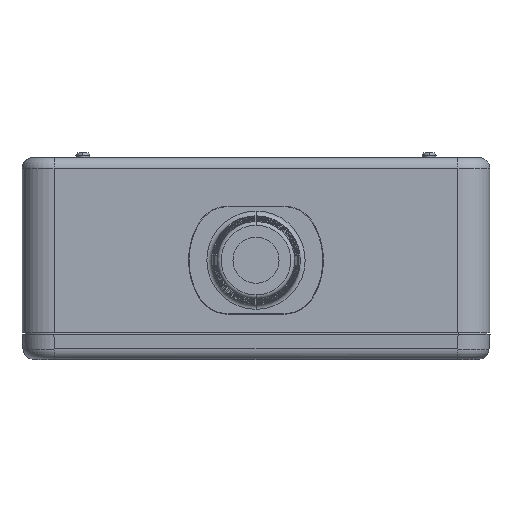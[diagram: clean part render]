
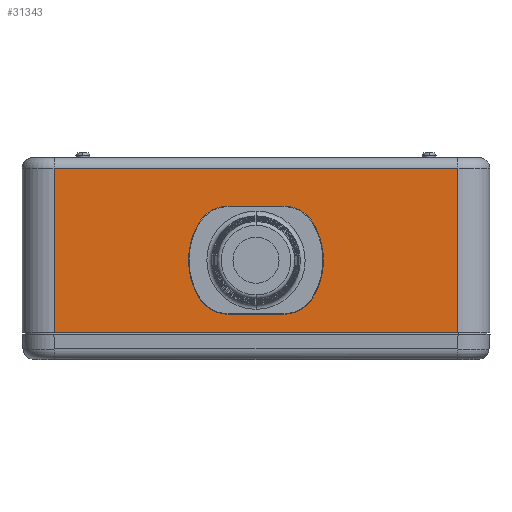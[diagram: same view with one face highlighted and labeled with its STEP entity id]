
A CAD part, front view. The second image highlights one B-rep face of the part: STEP entity #31343.
In plain terms, the highlighted planar face has unit normal (0, -1, 0).
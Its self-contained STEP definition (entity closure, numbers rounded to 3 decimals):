
#524 = EDGE_CURVE ( 'NONE', #14493, #39036, #20710, .T. ) ;
#4475 = DIRECTION ( 'NONE',  ( 0., -1., 0. ) ) ;
#4897 = CARTESIAN_POINT ( 'NONE',  ( 4.357, -68.008, -7.034 ) ) ;
#6177 = VECTOR ( 'NONE', #56966, 1000. ) ;
#6630 = EDGE_CURVE ( 'NONE', #39036, #73761, #94877, .T. ) ;
#7365 = ORIENTED_EDGE ( 'NONE', *, *, #16779, .T. ) ;
#8489 = ORIENTED_EDGE ( 'NONE', *, *, #6630, .F. ) ;
#9577 = CARTESIAN_POINT ( 'NONE',  ( -8.85, -68.008, 7.318 ) ) ;
#9711 = EDGE_CURVE ( 'NONE', #14493, #64503, #93919, .T. ) ;
#11221 = DIRECTION ( 'NONE',  ( 0., 0., -1. ) ) ;
#11225 = AXIS2_PLACEMENT_3D ( 'NONE', #24477, #91588, #17654 ) ;
#11741 = FACE_OUTER_BOUND ( 'NONE', #31758, .T. ) ;
#13473 = CARTESIAN_POINT ( 'NONE',  ( 31.495, -68.008, -9.95 ) ) ;
#14281 = CARTESIAN_POINT ( 'NONE',  ( -0.75, -68.008, 1.396 ) ) ;
#14439 = CARTESIAN_POINT ( 'NONE',  ( 0.75, -68.008, 1.396 ) ) ;
#14493 = VERTEX_POINT ( 'NONE', #18254 ) ;
#14773 = ORIENTED_EDGE ( 'NONE', *, *, #51017, .F. ) ;
#16639 = AXIS2_PLACEMENT_3D ( 'NONE', #14281, #52226, #22546 ) ;
#16779 = EDGE_CURVE ( 'NONE', #46442, #28136, #45296, .T. ) ;
#17233 = CARTESIAN_POINT ( 'NONE',  ( 10.53, -68.008, 1.396 ) ) ;
#17654 = DIRECTION ( 'NONE',  ( 0.851, 0., 0.525 ) ) ;
#18254 = CARTESIAN_POINT ( 'NONE',  ( -4.356, -68.008, 9.826 ) ) ;
#18298 = DIRECTION ( 'NONE',  ( 0., -1., 0. ) ) ;
#19647 = VECTOR ( 'NONE', #54253, 1000. ) ;
#20034 = ORIENTED_EDGE ( 'NONE', *, *, #85271, .T. ) ;
#20710 = CIRCLE ( 'NONE', #92156, 5.28 ) ;
#22295 = EDGE_CURVE ( 'NONE', #34555, #64503, #32958, .T. ) ;
#22546 = DIRECTION ( 'NONE',  ( 1., 0., 0. ) ) ;
#23533 = AXIS2_PLACEMENT_3D ( 'NONE', #71102, #4475, #34132 ) ;
#24214 = CIRCLE ( 'NONE', #49060, 5.28 ) ;
#24245 = AXIS2_PLACEMENT_3D ( 'NONE', #91953, #54988, #40873 ) ;
#24325 = CARTESIAN_POINT ( 'NONE',  ( 31.495, -68.008, -9.95 ) ) ;
#24477 = CARTESIAN_POINT ( 'NONE',  ( 4.357, -68.008, 4.546 ) ) ;
#24670 = CARTESIAN_POINT ( 'NONE',  ( -4.356, -68.008, -7.034 ) ) ;
#25810 = CARTESIAN_POINT ( 'NONE',  ( -31.495, -68.008, 15.646 ) ) ;
#26063 = CARTESIAN_POINT ( 'NONE',  ( 4.357, -68.008, -1.754 ) ) ;
#28136 = VERTEX_POINT ( 'NONE', #65397 ) ;
#29310 = DIRECTION ( 'NONE',  ( 0., 0., 1. ) ) ;
#29518 = DIRECTION ( 'NONE',  ( 0., -1., 0. ) ) ;
#31343 = ADVANCED_FACE ( 'NONE', ( #78402, #11741 ), #41426, .T. ) ;
#31758 = EDGE_LOOP ( 'NONE', ( #83322, #50872, #7365, #20034 ) ) ;
#32958 = CIRCLE ( 'NONE', #11225, 5.28 ) ;
#33349 = ORIENTED_EDGE ( 'NONE', *, *, #9711, .T. ) ;
#34132 = DIRECTION ( 'NONE',  ( 0., 0., -1. ) ) ;
#34555 = VERTEX_POINT ( 'NONE', #39307 ) ;
#39036 = VERTEX_POINT ( 'NONE', #9577 ) ;
#39307 = CARTESIAN_POINT ( 'NONE',  ( 8.851, -68.008, 7.318 ) ) ;
#40251 = CARTESIAN_POINT ( 'NONE',  ( -31.495, -68.008, 15.646 ) ) ;
#40329 = DIRECTION ( 'NONE',  ( 0., -1., 0. ) ) ;
#40873 = DIRECTION ( 'NONE',  ( 1., 0., 0. ) ) ;
#41421 = CARTESIAN_POINT ( 'NONE',  ( 31.495, -68.008, -9.95 ) ) ;
#41426 = PLANE ( 'NONE',  #23533 ) ;
#42031 = AXIS2_PLACEMENT_3D ( 'NONE', #14439, #29518, #43633 ) ;
#43633 = DIRECTION ( 'NONE',  ( -1., 0., 0. ) ) ;
#45296 = LINE ( 'NONE', #24325, #55813 ) ;
#46442 = VERTEX_POINT ( 'NONE', #13473 ) ;
#47772 = DIRECTION ( 'NONE',  ( -1., 0., 0. ) ) ;
#48250 = CARTESIAN_POINT ( 'NONE',  ( -31.495, -68.008, -9.95 ) ) ;
#49060 = AXIS2_PLACEMENT_3D ( 'NONE', #26063, #18298, #49413 ) ;
#49103 = VERTEX_POINT ( 'NONE', #24670 ) ;
#49413 = DIRECTION ( 'NONE',  ( 0., 0., -1. ) ) ;
#49552 = VERTEX_POINT ( 'NONE', #48250 ) ;
#49662 = VECTOR ( 'NONE', #11221, 1000. ) ;
#50872 = ORIENTED_EDGE ( 'NONE', *, *, #71542, .F. ) ;
#51017 = EDGE_CURVE ( 'NONE', #92412, #86627, #72592, .T. ) ;
#51769 = ORIENTED_EDGE ( 'NONE', *, *, #59227, .T. ) ;
#51794 = CARTESIAN_POINT ( 'NONE',  ( 31.495, -68.008, 15.646 ) ) ;
#52102 = VERTEX_POINT ( 'NONE', #40251 ) ;
#52226 = DIRECTION ( 'NONE',  ( 0., -1., 0. ) ) ;
#53619 = ORIENTED_EDGE ( 'NONE', *, *, #73783, .F. ) ;
#54253 = DIRECTION ( 'NONE',  ( -1., 0., 0. ) ) ;
#54598 = LINE ( 'NONE', #41421, #84574 ) ;
#54671 = ORIENTED_EDGE ( 'NONE', *, *, #87472, .F. ) ;
#54988 = DIRECTION ( 'NONE',  ( 0., -1., 0. ) ) ;
#55813 = VECTOR ( 'NONE', #74953, 1000. ) ;
#56966 = DIRECTION ( 'NONE',  ( 1., 0., 0. ) ) ;
#58622 = CIRCLE ( 'NONE', #75710, 5.28 ) ;
#59227 = EDGE_CURVE ( 'NONE', #85482, #49103, #82967, .T. ) ;
#62103 = EDGE_CURVE ( 'NONE', #52102, #49552, #92447, .T. ) ;
#62240 = CARTESIAN_POINT ( 'NONE',  ( -4.356, -68.008, -1.754 ) ) ;
#64503 = VERTEX_POINT ( 'NONE', #78973 ) ;
#65397 = CARTESIAN_POINT ( 'NONE',  ( 31.495, -68.008, 15.646 ) ) ;
#66186 = CIRCLE ( 'NONE', #24245, 11.28 ) ;
#67477 = CARTESIAN_POINT ( 'NONE',  ( 8.851, -68.008, -4.526 ) ) ;
#67891 = CARTESIAN_POINT ( 'NONE',  ( 4.357, -68.008, -7.034 ) ) ;
#68229 = DIRECTION ( 'NONE',  ( 0., -1., 0. ) ) ;
#70016 = DIRECTION ( 'NONE',  ( -0.851, 0., -0.525 ) ) ;
#70553 = CARTESIAN_POINT ( 'NONE',  ( -8.85, -68.008, -4.526 ) ) ;
#71102 = CARTESIAN_POINT ( 'NONE',  ( -37.577, -68.008, -11.87 ) ) ;
#71542 = EDGE_CURVE ( 'NONE', #46442, #49552, #54598, .T. ) ;
#72028 = CARTESIAN_POINT ( 'NONE',  ( -4.356, -68.008, 9.826 ) ) ;
#72592 = CIRCLE ( 'NONE', #16639, 11.28 ) ;
#72624 = EDGE_LOOP ( 'NONE', ( #33349, #87571, #53619, #14773, #54671, #51769, #79794, #8489, #79507 ) ) ;
#73761 = VERTEX_POINT ( 'NONE', #70553 ) ;
#73783 = EDGE_CURVE ( 'NONE', #86627, #34555, #66186, .T. ) ;
#74953 = DIRECTION ( 'NONE',  ( 0., 0., 1. ) ) ;
#75710 = AXIS2_PLACEMENT_3D ( 'NONE', #62240, #40329, #70016 ) ;
#78402 = FACE_BOUND ( 'NONE', #72624, .T. ) ;
#78511 = VECTOR ( 'NONE', #95562, 1000. ) ;
#78973 = CARTESIAN_POINT ( 'NONE',  ( 4.357, -68.008, 9.826 ) ) ;
#79507 = ORIENTED_EDGE ( 'NONE', *, *, #524, .F. ) ;
#79794 = ORIENTED_EDGE ( 'NONE', *, *, #94964, .F. ) ;
#82967 = LINE ( 'NONE', #67891, #19647 ) ;
#83322 = ORIENTED_EDGE ( 'NONE', *, *, #62103, .T. ) ;
#84574 = VECTOR ( 'NONE', #47772, 1000. ) ;
#85271 = EDGE_CURVE ( 'NONE', #28136, #52102, #87308, .T. ) ;
#85482 = VERTEX_POINT ( 'NONE', #4897 ) ;
#86627 = VERTEX_POINT ( 'NONE', #17233 ) ;
#87308 = LINE ( 'NONE', #51794, #78511 ) ;
#87472 = EDGE_CURVE ( 'NONE', #85482, #92412, #24214, .T. ) ;
#87571 = ORIENTED_EDGE ( 'NONE', *, *, #22295, .F. ) ;
#91588 = DIRECTION ( 'NONE',  ( 0., -1., 0. ) ) ;
#91953 = CARTESIAN_POINT ( 'NONE',  ( -0.75, -68.008, 1.396 ) ) ;
#92156 = AXIS2_PLACEMENT_3D ( 'NONE', #95960, #68229, #29310 ) ;
#92412 = VERTEX_POINT ( 'NONE', #67477 ) ;
#92447 = LINE ( 'NONE', #25810, #49662 ) ;
#93919 = LINE ( 'NONE', #72028, #6177 ) ;
#94877 = CIRCLE ( 'NONE', #42031, 11.28 ) ;
#94964 = EDGE_CURVE ( 'NONE', #73761, #49103, #58622, .T. ) ;
#95562 = DIRECTION ( 'NONE',  ( -1., 0., 0. ) ) ;
#95960 = CARTESIAN_POINT ( 'NONE',  ( -4.356, -68.008, 4.546 ) ) ;
